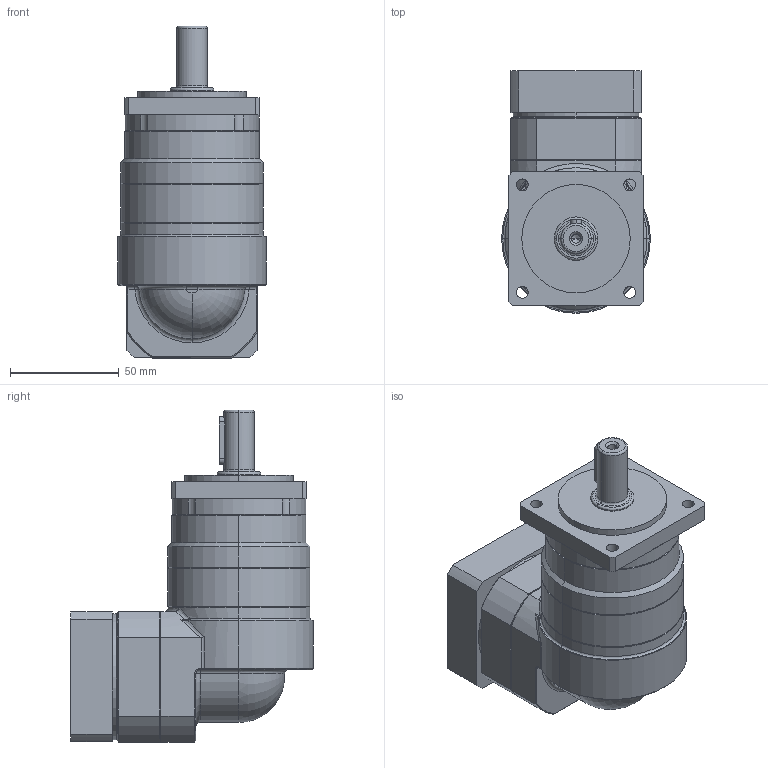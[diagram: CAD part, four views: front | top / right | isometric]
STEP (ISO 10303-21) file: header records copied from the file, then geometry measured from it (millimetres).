
FILE_DESCRIPTION (( 'STEP AP214' ), '1' );
FILE_NAME ('FBR060-L1-S2-P2 14-50-70-M5.STEP', '2025-01-22T06:22:50', ( '微软用户' ), ( '微软中国' ), 'SwSTEP 2.0', 'SolidWorks 2021', '' );
FILE_SCHEMA (( 'AUTOMOTIVE_DESIGN' ));
Length unit declared in the file: millimetre
Products named in the file (1): FBR060-L1-S2-P2 14-50-70-M5
Bounding box: 68.5 x 111.75 x 153 mm (x, y, z)
Volume: 497752.6 mm3; surface area: 53194.2 mm2
Topology: 1 solids, 1 shells, 204 faces, 478 edges, 294 vertices
Faces by surface type: cylinder 84, plane 60, cone 36, torus 14, bspline 8, sphere 2
Entity records: 6508 total; most frequent: CARTESIAN_POINT 1749, DIRECTION 1031, ORIENTED_EDGE 952, EDGE_CURVE 476, AXIS2_PLACEMENT_3D 423, VERTEX_POINT 294, EDGE_LOOP 232, CIRCLE 226
